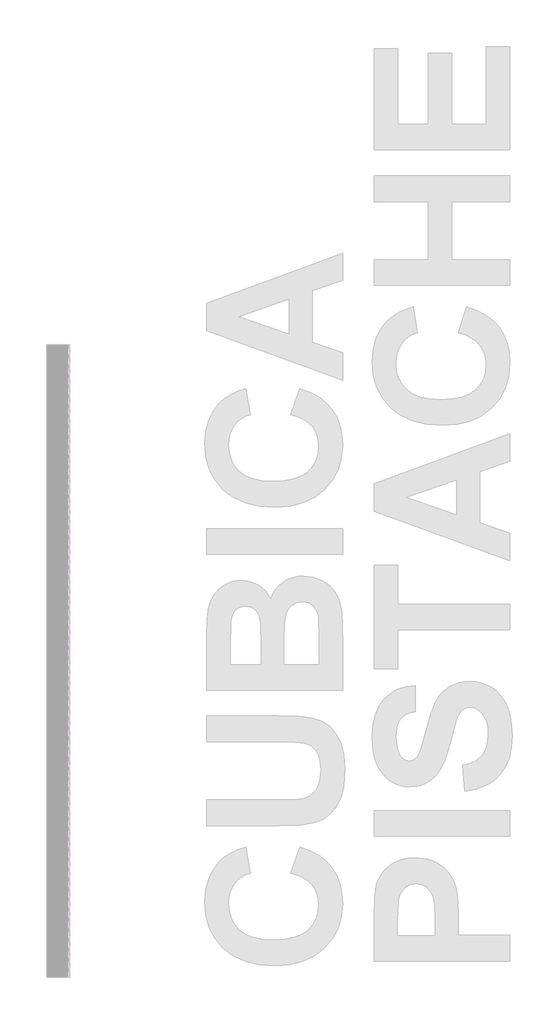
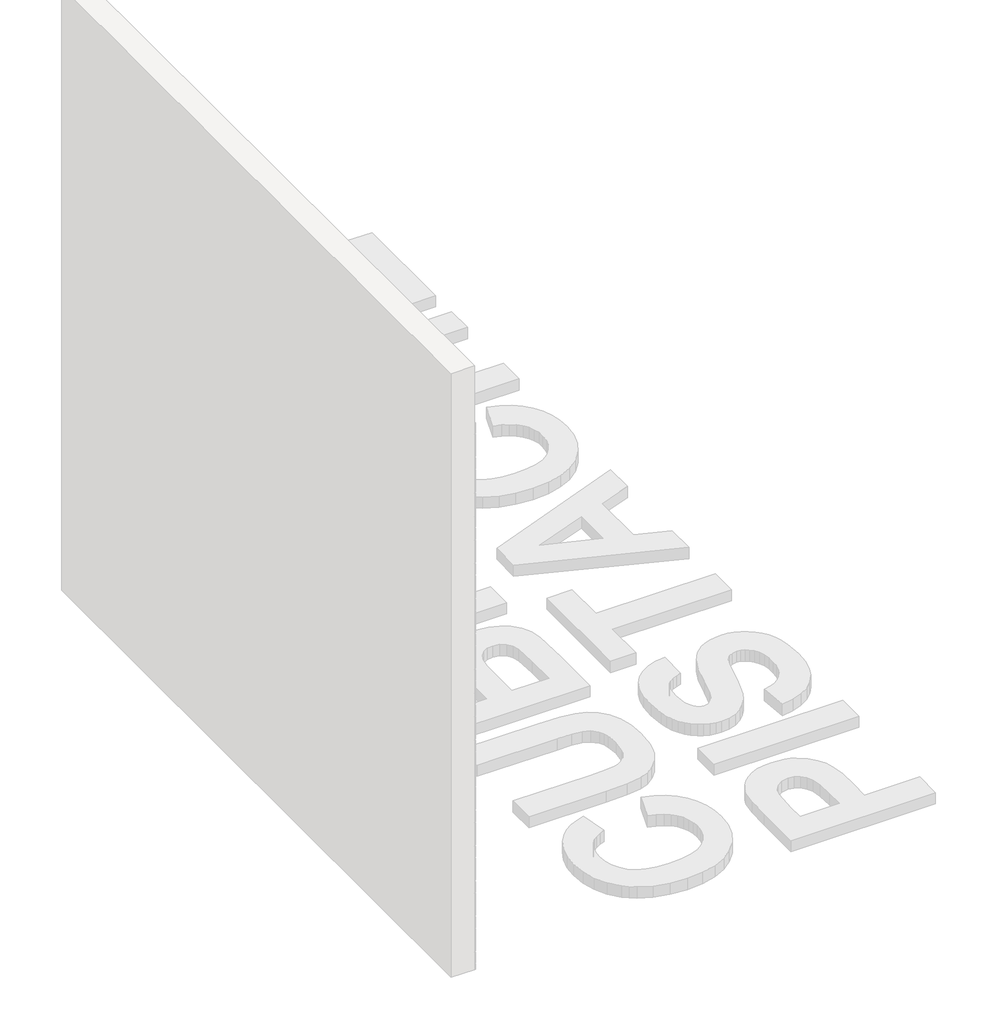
# One storey, part 84 of 121: 145 proxies.
"""IFC4 building model written with IfcOpenShell, lengths in millimetres."""

from ifc_helpers import new_model, si_unit, origin, place, context, project, spatial, transform, mapped, element, save
from components import generic_models_b2b2c5c1, generic_models_9bf73f6f, generic_models_5d175859, generic_models_95f85f1d

model = new_model("IFC4")

# Units and contexts
model_context = context("Model", 3, world=origin())
ifc_project = project(units=[si_unit("LENGTHUNIT", "METRE", prefix="MILLI")], contexts=[model_context])

# Site, building, storey
site = spatial("IfcSite", under=ifc_project)
building = spatial("IfcBuilding", under=site)
storey = spatial("IfcBuildingStorey", under=building, Name="PORTOBELLO - SHOWROOM", Elevation=0.0)

# Proxies
placement = place(None, origin())
generic_models_shape = generic_models_b2b2c5c1(model_context)
element("IfcBuildingElementProxy", 1, Name="PBSHOP - CUBICA PISTACHE 4,8X8,3 : CUBICA PISTACHE - POSIÇÃO 01", ObjectType="PBSHOP - CUBICA PISTACHE 4,8X8,3 : CUBICA PISTACHE - POSIÇÃO 01", at=placement, inside=storey, context=model_context, shape_type="MappedRepresentation", body=[
    mapped(generic_models_shape, transform((150369.5341846, 14249.9760535, 39.4221668), x_axis=(0.0, 1.0, 0.0), y_axis=(0.0, 0.0, 1.0), z_axis=(1.0, 0.0, 0.0))),
])
element("IfcBuildingElementProxy", 2, Name="PBSHOP - CUBICA PISTACHE 4,8X8,3 : CUBICA PISTACHE - POSIÇÃO 01", ObjectType="PBSHOP - CUBICA PISTACHE 4,8X8,3 : CUBICA PISTACHE - POSIÇÃO 01", at=placement, inside=storey, context=model_context, shape_type="MappedRepresentation", body=[
    mapped(generic_models_shape, transform((150369.5341846, 14340.8153227, 39.4221668), x_axis=(0.0, 1.0, 0.0), y_axis=(0.0, 0.0, 1.0), z_axis=(1.0, 0.0, 0.0))),
])
element("IfcBuildingElementProxy", 3, Name="PBSHOP - CUBICA PISTACHE 4,8X8,3 : CUBICA PISTACHE - POSIÇÃO 01", ObjectType="PBSHOP - CUBICA PISTACHE 4,8X8,3 : CUBICA PISTACHE - POSIÇÃO 01", at=placement, inside=storey, context=model_context, shape_type="MappedRepresentation", body=[
    mapped(generic_models_shape, transform((150369.5341846, 14431.654592, 39.4221668), x_axis=(0.0, 1.0, 0.0), y_axis=(0.0, 0.0, 1.0), z_axis=(1.0, 0.0, 0.0))),
])
element("IfcBuildingElementProxy", 4, Name="PBSHOP - CUBICA PISTACHE 4,8X8,3 : CUBICA PISTACHE - POSIÇÃO 01", ObjectType="PBSHOP - CUBICA PISTACHE 4,8X8,3 : CUBICA PISTACHE - POSIÇÃO 01", at=placement, inside=storey, context=model_context, shape_type="MappedRepresentation", body=[
    mapped(generic_models_shape, transform((150369.5341846, 14522.4938612, 39.4221668), x_axis=(0.0, 1.0, 0.0), y_axis=(0.0, 0.0, 1.0), z_axis=(1.0, 0.0, 0.0))),
])
element("IfcBuildingElementProxy", 5, Name="PBSHOP - CUBICA PISTACHE 4,8X8,3 : CUBICA PISTACHE - POSIÇÃO 01", ObjectType="PBSHOP - CUBICA PISTACHE 4,8X8,3 : CUBICA PISTACHE - POSIÇÃO 01", at=placement, inside=storey, context=model_context, shape_type="MappedRepresentation", body=[
    mapped(generic_models_shape, transform((150369.5341846, 14613.3331304, 39.4221668), x_axis=(0.0, 1.0, 0.0), y_axis=(0.0, 0.0, 1.0), z_axis=(1.0, 0.0, 0.0))),
])
element("IfcBuildingElementProxy", 6, Name="PBSHOP - CUBICA PISTACHE 4,8X8,3 : CUBICA PISTACHE - POSIÇÃO 01", ObjectType="PBSHOP - CUBICA PISTACHE 4,8X8,3 : CUBICA PISTACHE - POSIÇÃO 01", at=placement, inside=storey, context=model_context, shape_type="MappedRepresentation", body=[
    mapped(generic_models_shape, transform((150369.5341846, 14704.1723997, 39.4221668), x_axis=(0.0, 1.0, 0.0), y_axis=(0.0, 0.0, 1.0), z_axis=(1.0, 0.0, 0.0))),
])
element("IfcBuildingElementProxy", 7, Name="PBSHOP - CUBICA PISTACHE 4,8X8,3 : CUBICA PISTACHE - POSIÇÃO 01", ObjectType="PBSHOP - CUBICA PISTACHE 4,8X8,3 : CUBICA PISTACHE - POSIÇÃO 01", at=placement, inside=storey, context=model_context, shape_type="MappedRepresentation", body=[
    mapped(generic_models_shape, transform((150369.5341846, 14795.0116689, 39.4221668), x_axis=(0.0, 1.0, 0.0), y_axis=(0.0, 0.0, 1.0), z_axis=(1.0, 0.0, 0.0))),
])
element("IfcBuildingElementProxy", 8, Name="PBSHOP - CUBICA PISTACHE 4,8X8,3 : CUBICA PISTACHE - POSIÇÃO 01", ObjectType="PBSHOP - CUBICA PISTACHE 4,8X8,3 : CUBICA PISTACHE - POSIÇÃO 01", at=placement, inside=storey, context=model_context, shape_type="MappedRepresentation", body=[
    mapped(generic_models_shape, transform((150369.5341846, 14885.8509382, 39.4221668), x_axis=(0.0, 1.0, 0.0), y_axis=(0.0, 0.0, 1.0), z_axis=(1.0, 0.0, 0.0))),
])
element("IfcBuildingElementProxy", 9, Name="PBSHOP - CUBICA PISTACHE 4,8X8,3 : CUBICA PISTACHE - POSIÇÃO 01", ObjectType="PBSHOP - CUBICA PISTACHE 4,8X8,3 : CUBICA PISTACHE - POSIÇÃO 01", at=placement, inside=storey, context=model_context, shape_type="MappedRepresentation", body=[
    mapped(generic_models_shape, transform((150369.5341846, 14976.6902074, 39.4221668), x_axis=(0.0, 1.0, 0.0), y_axis=(0.0, 0.0, 1.0), z_axis=(1.0, 0.0, 0.0))),
])
element("IfcBuildingElementProxy", 10, Name="PBSHOP - CUBICA PISTACHE 4,8X8,3 : CUBICA PISTACHE - POSIÇÃO 01", ObjectType="PBSHOP - CUBICA PISTACHE 4,8X8,3 : CUBICA PISTACHE - POSIÇÃO 01", at=placement, inside=storey, context=model_context, shape_type="MappedRepresentation", body=[
    mapped(generic_models_shape, transform((150369.5341846, 14022.8778804, 118.3568052), x_axis=(0.0, 1.0, 0.0), y_axis=(0.0, 0.0, 1.0), z_axis=(1.0, 0.0, 0.0))),
])
element("IfcBuildingElementProxy", 11, Name="PBSHOP - CUBICA PISTACHE 4,8X8,3 : CUBICA PISTACHE - POSIÇÃO 01", ObjectType="PBSHOP - CUBICA PISTACHE 4,8X8,3 : CUBICA PISTACHE - POSIÇÃO 01", at=placement, inside=storey, context=model_context, shape_type="MappedRepresentation", body=[
    mapped(generic_models_shape, transform((150369.5341846, 14113.7171496, 118.3568052), x_axis=(0.0, 1.0, 0.0), y_axis=(0.0, 0.0, 1.0), z_axis=(1.0, 0.0, 0.0))),
])
element("IfcBuildingElementProxy", 12, Name="PBSHOP - CUBICA PISTACHE 4,8X8,3 : CUBICA PISTACHE - POSIÇÃO 01", ObjectType="PBSHOP - CUBICA PISTACHE 4,8X8,3 : CUBICA PISTACHE - POSIÇÃO 01", at=placement, inside=storey, context=model_context, shape_type="MappedRepresentation", body=[
    mapped(generic_models_shape, transform((150369.5341846, 14204.5564189, 118.3568052), x_axis=(0.0, 1.0, 0.0), y_axis=(0.0, 0.0, 1.0), z_axis=(1.0, 0.0, 0.0))),
])
element("IfcBuildingElementProxy", 13, Name="PBSHOP - CUBICA PISTACHE 4,8X8,3 : CUBICA PISTACHE - POSIÇÃO 01", ObjectType="PBSHOP - CUBICA PISTACHE 4,8X8,3 : CUBICA PISTACHE - POSIÇÃO 01", at=placement, inside=storey, context=model_context, shape_type="MappedRepresentation", body=[
    mapped(generic_models_shape, transform((150369.5341846, 14295.3956881, 118.3568052), x_axis=(0.0, 1.0, 0.0), y_axis=(0.0, 0.0, 1.0), z_axis=(1.0, 0.0, 0.0))),
])
element("IfcBuildingElementProxy", 14, Name="PBSHOP - CUBICA PISTACHE 4,8X8,3 : CUBICA PISTACHE - POSIÇÃO 01", ObjectType="PBSHOP - CUBICA PISTACHE 4,8X8,3 : CUBICA PISTACHE - POSIÇÃO 01", at=placement, inside=storey, context=model_context, shape_type="MappedRepresentation", body=[
    mapped(generic_models_shape, transform((150369.5341846, 14386.2349573, 118.3568052), x_axis=(0.0, 1.0, 0.0), y_axis=(0.0, 0.0, 1.0), z_axis=(1.0, 0.0, 0.0))),
])
element("IfcBuildingElementProxy", 15, Name="PBSHOP - CUBICA PISTACHE 4,8X8,3 : CUBICA PISTACHE - POSIÇÃO 01", ObjectType="PBSHOP - CUBICA PISTACHE 4,8X8,3 : CUBICA PISTACHE - POSIÇÃO 01", at=placement, inside=storey, context=model_context, shape_type="MappedRepresentation", body=[
    mapped(generic_models_shape, transform((150369.5341846, 14477.0742266, 118.3568052), x_axis=(0.0, 1.0, 0.0), y_axis=(0.0, 0.0, 1.0), z_axis=(1.0, 0.0, 0.0))),
])
element("IfcBuildingElementProxy", 16, Name="PBSHOP - CUBICA PISTACHE 4,8X8,3 : CUBICA PISTACHE - POSIÇÃO 01", ObjectType="PBSHOP - CUBICA PISTACHE 4,8X8,3 : CUBICA PISTACHE - POSIÇÃO 01", at=placement, inside=storey, context=model_context, shape_type="MappedRepresentation", body=[
    mapped(generic_models_shape, transform((150369.5341846, 14567.9134958, 118.3568052), x_axis=(0.0, 1.0, 0.0), y_axis=(0.0, 0.0, 1.0), z_axis=(1.0, 0.0, 0.0))),
])
element("IfcBuildingElementProxy", 17, Name="PBSHOP - CUBICA PISTACHE 4,8X8,3 : CUBICA PISTACHE - POSIÇÃO 01", ObjectType="PBSHOP - CUBICA PISTACHE 4,8X8,3 : CUBICA PISTACHE - POSIÇÃO 01", at=placement, inside=storey, context=model_context, shape_type="MappedRepresentation", body=[
    mapped(generic_models_shape, transform((150369.5341846, 14658.7527651, 118.3568052), x_axis=(0.0, 1.0, 0.0), y_axis=(0.0, 0.0, 1.0), z_axis=(1.0, 0.0, 0.0))),
])
element("IfcBuildingElementProxy", 18, Name="PBSHOP - CUBICA PISTACHE 4,8X8,3 : CUBICA PISTACHE - POSIÇÃO 01", ObjectType="PBSHOP - CUBICA PISTACHE 4,8X8,3 : CUBICA PISTACHE - POSIÇÃO 01", at=placement, inside=storey, context=model_context, shape_type="MappedRepresentation", body=[
    mapped(generic_models_shape, transform((150369.5341846, 14749.5920343, 118.3568052), x_axis=(0.0, 1.0, 0.0), y_axis=(0.0, 0.0, 1.0), z_axis=(1.0, 0.0, 0.0))),
])
element("IfcBuildingElementProxy", 19, Name="PBSHOP - CUBICA PISTACHE 4,8X8,3 : CUBICA PISTACHE - POSIÇÃO 01", ObjectType="PBSHOP - CUBICA PISTACHE 4,8X8,3 : CUBICA PISTACHE - POSIÇÃO 01", at=placement, inside=storey, context=model_context, shape_type="MappedRepresentation", body=[
    mapped(generic_models_shape, transform((150369.5341846, 14840.4313036, 118.3568052), x_axis=(0.0, 1.0, 0.0), y_axis=(0.0, 0.0, 1.0), z_axis=(1.0, 0.0, 0.0))),
])
element("IfcBuildingElementProxy", 20, Name="PBSHOP - CUBICA PISTACHE 4,8X8,3 : CUBICA PISTACHE - POSIÇÃO 01", ObjectType="PBSHOP - CUBICA PISTACHE 4,8X8,3 : CUBICA PISTACHE - POSIÇÃO 01", at=placement, inside=storey, context=model_context, shape_type="MappedRepresentation", body=[
    mapped(generic_models_shape, transform((150369.5341846, 14931.2705728, 118.3568052), x_axis=(0.0, 1.0, 0.0), y_axis=(0.0, 0.0, 1.0), z_axis=(1.0, 0.0, 0.0))),
])
element("IfcBuildingElementProxy", 21, Name="PBSHOP - CUBICA PISTACHE 4,8X8,3 : CUBICA PISTACHE - POSIÇÃO 01", ObjectType="PBSHOP - CUBICA PISTACHE 4,8X8,3 : CUBICA PISTACHE - POSIÇÃO 01", at=placement, inside=storey, context=model_context, shape_type="MappedRepresentation", body=[
    mapped(generic_models_shape, transform((150369.5341846, 14068.297515, 197.2914436), x_axis=(0.0, 1.0, 0.0), y_axis=(0.0, 0.0, 1.0), z_axis=(1.0, 0.0, 0.0))),
])
element("IfcBuildingElementProxy", 22, Name="PBSHOP - CUBICA PISTACHE 4,8X8,3 : CUBICA PISTACHE - POSIÇÃO 01", ObjectType="PBSHOP - CUBICA PISTACHE 4,8X8,3 : CUBICA PISTACHE - POSIÇÃO 01", at=placement, inside=storey, context=model_context, shape_type="MappedRepresentation", body=[
    mapped(generic_models_shape, transform((150369.5341846, 14159.1367842, 197.2914436), x_axis=(0.0, 1.0, 0.0), y_axis=(0.0, 0.0, 1.0), z_axis=(1.0, 0.0, 0.0))),
])
element("IfcBuildingElementProxy", 23, Name="PBSHOP - CUBICA PISTACHE 4,8X8,3 : CUBICA PISTACHE - POSIÇÃO 01", ObjectType="PBSHOP - CUBICA PISTACHE 4,8X8,3 : CUBICA PISTACHE - POSIÇÃO 01", at=placement, inside=storey, context=model_context, shape_type="MappedRepresentation", body=[
    mapped(generic_models_shape, transform((150369.5341846, 14249.9760535, 197.2914436), x_axis=(0.0, 1.0, 0.0), y_axis=(0.0, 0.0, 1.0), z_axis=(1.0, 0.0, 0.0))),
])
element("IfcBuildingElementProxy", 24, Name="PBSHOP - CUBICA PISTACHE 4,8X8,3 : CUBICA PISTACHE - POSIÇÃO 01", ObjectType="PBSHOP - CUBICA PISTACHE 4,8X8,3 : CUBICA PISTACHE - POSIÇÃO 01", at=placement, inside=storey, context=model_context, shape_type="MappedRepresentation", body=[
    mapped(generic_models_shape, transform((150369.5341846, 14340.8153227, 197.2914436), x_axis=(0.0, 1.0, 0.0), y_axis=(0.0, 0.0, 1.0), z_axis=(1.0, 0.0, 0.0))),
])
element("IfcBuildingElementProxy", 25, Name="PBSHOP - CUBICA PISTACHE 4,8X8,3 : CUBICA PISTACHE - POSIÇÃO 01", ObjectType="PBSHOP - CUBICA PISTACHE 4,8X8,3 : CUBICA PISTACHE - POSIÇÃO 01", at=placement, inside=storey, context=model_context, shape_type="MappedRepresentation", body=[
    mapped(generic_models_shape, transform((150369.5341846, 14431.654592, 197.2914436), x_axis=(0.0, 1.0, 0.0), y_axis=(0.0, 0.0, 1.0), z_axis=(1.0, 0.0, 0.0))),
])
element("IfcBuildingElementProxy", 26, Name="PBSHOP - CUBICA PISTACHE 4,8X8,3 : CUBICA PISTACHE - POSIÇÃO 01", ObjectType="PBSHOP - CUBICA PISTACHE 4,8X8,3 : CUBICA PISTACHE - POSIÇÃO 01", at=placement, inside=storey, context=model_context, shape_type="MappedRepresentation", body=[
    mapped(generic_models_shape, transform((150369.5341846, 14522.4938612, 197.2914436), x_axis=(0.0, 1.0, 0.0), y_axis=(0.0, 0.0, 1.0), z_axis=(1.0, 0.0, 0.0))),
])
element("IfcBuildingElementProxy", 27, Name="PBSHOP - CUBICA PISTACHE 4,8X8,3 : CUBICA PISTACHE - POSIÇÃO 01", ObjectType="PBSHOP - CUBICA PISTACHE 4,8X8,3 : CUBICA PISTACHE - POSIÇÃO 01", at=placement, inside=storey, context=model_context, shape_type="MappedRepresentation", body=[
    mapped(generic_models_shape, transform((150369.5341846, 14613.3331304, 197.2914436), x_axis=(0.0, 1.0, 0.0), y_axis=(0.0, 0.0, 1.0), z_axis=(1.0, 0.0, 0.0))),
])
element("IfcBuildingElementProxy", 28, Name="PBSHOP - CUBICA PISTACHE 4,8X8,3 : CUBICA PISTACHE - POSIÇÃO 01", ObjectType="PBSHOP - CUBICA PISTACHE 4,8X8,3 : CUBICA PISTACHE - POSIÇÃO 01", at=placement, inside=storey, context=model_context, shape_type="MappedRepresentation", body=[
    mapped(generic_models_shape, transform((150369.5341846, 14704.1723997, 197.2914436), x_axis=(0.0, 1.0, 0.0), y_axis=(0.0, 0.0, 1.0), z_axis=(1.0, 0.0, 0.0))),
])
element("IfcBuildingElementProxy", 29, Name="PBSHOP - CUBICA PISTACHE 4,8X8,3 : CUBICA PISTACHE - POSIÇÃO 01", ObjectType="PBSHOP - CUBICA PISTACHE 4,8X8,3 : CUBICA PISTACHE - POSIÇÃO 01", at=placement, inside=storey, context=model_context, shape_type="MappedRepresentation", body=[
    mapped(generic_models_shape, transform((150369.5341846, 14795.0116689, 197.2914436), x_axis=(0.0, 1.0, 0.0), y_axis=(0.0, 0.0, 1.0), z_axis=(1.0, 0.0, 0.0))),
])
element("IfcBuildingElementProxy", 30, Name="PBSHOP - CUBICA PISTACHE 4,8X8,3 : CUBICA PISTACHE - POSIÇÃO 01", ObjectType="PBSHOP - CUBICA PISTACHE 4,8X8,3 : CUBICA PISTACHE - POSIÇÃO 01", at=placement, inside=storey, context=model_context, shape_type="MappedRepresentation", body=[
    mapped(generic_models_shape, transform((150369.5341846, 14885.8509382, 197.2914436), x_axis=(0.0, 1.0, 0.0), y_axis=(0.0, 0.0, 1.0), z_axis=(1.0, 0.0, 0.0))),
])
element("IfcBuildingElementProxy", 31, Name="PBSHOP - CUBICA PISTACHE 4,8X8,3 : CUBICA PISTACHE - POSIÇÃO 01", ObjectType="PBSHOP - CUBICA PISTACHE 4,8X8,3 : CUBICA PISTACHE - POSIÇÃO 01", at=placement, inside=storey, context=model_context, shape_type="MappedRepresentation", body=[
    mapped(generic_models_shape, transform((150369.5341846, 14976.6902074, 197.2914436), x_axis=(0.0, 1.0, 0.0), y_axis=(0.0, 0.0, 1.0), z_axis=(1.0, 0.0, 0.0))),
])
element("IfcBuildingElementProxy", 32, Name="PBSHOP - CUBICA PISTACHE 4,8X8,3 : CUBICA PISTACHE - POSIÇÃO 01", ObjectType="PBSHOP - CUBICA PISTACHE 4,8X8,3 : CUBICA PISTACHE - POSIÇÃO 01", at=placement, inside=storey, context=model_context, shape_type="MappedRepresentation", body=[
    mapped(generic_models_shape, transform((150369.5341846, 14022.8778804, 276.2260819), x_axis=(0.0, 1.0, 0.0), y_axis=(0.0, 0.0, 1.0), z_axis=(1.0, 0.0, 0.0))),
])
element("IfcBuildingElementProxy", 33, Name="PBSHOP - CUBICA PISTACHE 4,8X8,3 : CUBICA PISTACHE - POSIÇÃO 01", ObjectType="PBSHOP - CUBICA PISTACHE 4,8X8,3 : CUBICA PISTACHE - POSIÇÃO 01", at=placement, inside=storey, context=model_context, shape_type="MappedRepresentation", body=[
    mapped(generic_models_shape, transform((150369.5341846, 14113.7171496, 276.2260819), x_axis=(0.0, 1.0, 0.0), y_axis=(0.0, 0.0, 1.0), z_axis=(1.0, 0.0, 0.0))),
])
element("IfcBuildingElementProxy", 34, Name="PBSHOP - CUBICA PISTACHE 4,8X8,3 : CUBICA PISTACHE - POSIÇÃO 01", ObjectType="PBSHOP - CUBICA PISTACHE 4,8X8,3 : CUBICA PISTACHE - POSIÇÃO 01", at=placement, inside=storey, context=model_context, shape_type="MappedRepresentation", body=[
    mapped(generic_models_shape, transform((150369.5341846, 14204.5564189, 276.2260819), x_axis=(0.0, 1.0, 0.0), y_axis=(0.0, 0.0, 1.0), z_axis=(1.0, 0.0, 0.0))),
])
element("IfcBuildingElementProxy", 35, Name="PBSHOP - CUBICA PISTACHE 4,8X8,3 : CUBICA PISTACHE - POSIÇÃO 01", ObjectType="PBSHOP - CUBICA PISTACHE 4,8X8,3 : CUBICA PISTACHE - POSIÇÃO 01", at=placement, inside=storey, context=model_context, shape_type="MappedRepresentation", body=[
    mapped(generic_models_shape, transform((150369.5341846, 14295.3956881, 276.2260819), x_axis=(0.0, 1.0, 0.0), y_axis=(0.0, 0.0, 1.0), z_axis=(1.0, 0.0, 0.0))),
])
element("IfcBuildingElementProxy", 36, Name="PBSHOP - CUBICA PISTACHE 4,8X8,3 : CUBICA PISTACHE - POSIÇÃO 01", ObjectType="PBSHOP - CUBICA PISTACHE 4,8X8,3 : CUBICA PISTACHE - POSIÇÃO 01", at=placement, inside=storey, context=model_context, shape_type="MappedRepresentation", body=[
    mapped(generic_models_shape, transform((150369.5341846, 14386.2349573, 276.2260819), x_axis=(0.0, 1.0, 0.0), y_axis=(0.0, 0.0, 1.0), z_axis=(1.0, 0.0, 0.0))),
])
element("IfcBuildingElementProxy", 37, Name="PBSHOP - CUBICA PISTACHE 4,8X8,3 : CUBICA PISTACHE - POSIÇÃO 01", ObjectType="PBSHOP - CUBICA PISTACHE 4,8X8,3 : CUBICA PISTACHE - POSIÇÃO 01", at=placement, inside=storey, context=model_context, shape_type="MappedRepresentation", body=[
    mapped(generic_models_shape, transform((150369.5341846, 14477.0742266, 276.2260819), x_axis=(0.0, 1.0, 0.0), y_axis=(0.0, 0.0, 1.0), z_axis=(1.0, 0.0, 0.0))),
])
element("IfcBuildingElementProxy", 38, Name="PBSHOP - CUBICA PISTACHE 4,8X8,3 : CUBICA PISTACHE - POSIÇÃO 01", ObjectType="PBSHOP - CUBICA PISTACHE 4,8X8,3 : CUBICA PISTACHE - POSIÇÃO 01", at=placement, inside=storey, context=model_context, shape_type="MappedRepresentation", body=[
    mapped(generic_models_shape, transform((150369.5341846, 14567.9134958, 276.2260819), x_axis=(0.0, 1.0, 0.0), y_axis=(0.0, 0.0, 1.0), z_axis=(1.0, 0.0, 0.0))),
])
element("IfcBuildingElementProxy", 39, Name="PBSHOP - CUBICA PISTACHE 4,8X8,3 : CUBICA PISTACHE - POSIÇÃO 01", ObjectType="PBSHOP - CUBICA PISTACHE 4,8X8,3 : CUBICA PISTACHE - POSIÇÃO 01", at=placement, inside=storey, context=model_context, shape_type="MappedRepresentation", body=[
    mapped(generic_models_shape, transform((150369.5341846, 14658.7527651, 276.2260819), x_axis=(0.0, 1.0, 0.0), y_axis=(0.0, 0.0, 1.0), z_axis=(1.0, 0.0, 0.0))),
])
element("IfcBuildingElementProxy", 40, Name="PBSHOP - CUBICA PISTACHE 4,8X8,3 : CUBICA PISTACHE - POSIÇÃO 01", ObjectType="PBSHOP - CUBICA PISTACHE 4,8X8,3 : CUBICA PISTACHE - POSIÇÃO 01", at=placement, inside=storey, context=model_context, shape_type="MappedRepresentation", body=[
    mapped(generic_models_shape, transform((150369.5341846, 14749.5920343, 276.2260819), x_axis=(0.0, 1.0, 0.0), y_axis=(0.0, 0.0, 1.0), z_axis=(1.0, 0.0, 0.0))),
])
element("IfcBuildingElementProxy", 41, Name="PBSHOP - CUBICA PISTACHE 4,8X8,3 : CUBICA PISTACHE - POSIÇÃO 01", ObjectType="PBSHOP - CUBICA PISTACHE 4,8X8,3 : CUBICA PISTACHE - POSIÇÃO 01", at=placement, inside=storey, context=model_context, shape_type="MappedRepresentation", body=[
    mapped(generic_models_shape, transform((150369.5341846, 14840.4313036, 276.2260819), x_axis=(0.0, 1.0, 0.0), y_axis=(0.0, 0.0, 1.0), z_axis=(1.0, 0.0, 0.0))),
])
element("IfcBuildingElementProxy", 42, Name="PBSHOP - CUBICA PISTACHE 4,8X8,3 : CUBICA PISTACHE - POSIÇÃO 01", ObjectType="PBSHOP - CUBICA PISTACHE 4,8X8,3 : CUBICA PISTACHE - POSIÇÃO 01", at=placement, inside=storey, context=model_context, shape_type="MappedRepresentation", body=[
    mapped(generic_models_shape, transform((150369.5341846, 14931.2705728, 276.2260819), x_axis=(0.0, 1.0, 0.0), y_axis=(0.0, 0.0, 1.0), z_axis=(1.0, 0.0, 0.0))),
])
element("IfcBuildingElementProxy", 43, Name="PBSHOP - CUBICA PISTACHE 4,8X8,3 : CUBICA PISTACHE - POSIÇÃO 01", ObjectType="PBSHOP - CUBICA PISTACHE 4,8X8,3 : CUBICA PISTACHE - POSIÇÃO 01", at=placement, inside=storey, context=model_context, shape_type="MappedRepresentation", body=[
    mapped(generic_models_shape, transform((150369.5341846, 14068.297515, 355.1607203), x_axis=(0.0, 1.0, 0.0), y_axis=(0.0, 0.0, 1.0), z_axis=(1.0, 0.0, 0.0))),
])
element("IfcBuildingElementProxy", 44, Name="PBSHOP - CUBICA PISTACHE 4,8X8,3 : CUBICA PISTACHE - POSIÇÃO 01", ObjectType="PBSHOP - CUBICA PISTACHE 4,8X8,3 : CUBICA PISTACHE - POSIÇÃO 01", at=placement, inside=storey, context=model_context, shape_type="MappedRepresentation", body=[
    mapped(generic_models_shape, transform((150369.5341846, 14159.1367842, 355.1607203), x_axis=(0.0, 1.0, 0.0), y_axis=(0.0, 0.0, 1.0), z_axis=(1.0, 0.0, 0.0))),
])
element("IfcBuildingElementProxy", 45, Name="PBSHOP - CUBICA PISTACHE 4,8X8,3 : CUBICA PISTACHE - POSIÇÃO 01", ObjectType="PBSHOP - CUBICA PISTACHE 4,8X8,3 : CUBICA PISTACHE - POSIÇÃO 01", at=placement, inside=storey, context=model_context, shape_type="MappedRepresentation", body=[
    mapped(generic_models_shape, transform((150369.5341846, 14249.9760535, 355.1607203), x_axis=(0.0, 1.0, 0.0), y_axis=(0.0, 0.0, 1.0), z_axis=(1.0, 0.0, 0.0))),
])
element("IfcBuildingElementProxy", 46, Name="PBSHOP - CUBICA PISTACHE 4,8X8,3 : CUBICA PISTACHE - POSIÇÃO 01", ObjectType="PBSHOP - CUBICA PISTACHE 4,8X8,3 : CUBICA PISTACHE - POSIÇÃO 01", at=placement, inside=storey, context=model_context, shape_type="MappedRepresentation", body=[
    mapped(generic_models_shape, transform((150369.5341846, 14340.8153227, 355.1607203), x_axis=(0.0, 1.0, 0.0), y_axis=(0.0, 0.0, 1.0), z_axis=(1.0, 0.0, 0.0))),
])
element("IfcBuildingElementProxy", 47, Name="PBSHOP - CUBICA PISTACHE 4,8X8,3 : CUBICA PISTACHE - POSIÇÃO 01", ObjectType="PBSHOP - CUBICA PISTACHE 4,8X8,3 : CUBICA PISTACHE - POSIÇÃO 01", at=placement, inside=storey, context=model_context, shape_type="MappedRepresentation", body=[
    mapped(generic_models_shape, transform((150369.5341846, 14431.654592, 355.1607203), x_axis=(0.0, 1.0, 0.0), y_axis=(0.0, 0.0, 1.0), z_axis=(1.0, 0.0, 0.0))),
])
element("IfcBuildingElementProxy", 48, Name="PBSHOP - CUBICA PISTACHE 4,8X8,3 : CUBICA PISTACHE - POSIÇÃO 01", ObjectType="PBSHOP - CUBICA PISTACHE 4,8X8,3 : CUBICA PISTACHE - POSIÇÃO 01", at=placement, inside=storey, context=model_context, shape_type="MappedRepresentation", body=[
    mapped(generic_models_shape, transform((150369.5341846, 14522.4938612, 355.1607203), x_axis=(0.0, 1.0, 0.0), y_axis=(0.0, 0.0, 1.0), z_axis=(1.0, 0.0, 0.0))),
])
element("IfcBuildingElementProxy", 49, Name="PBSHOP - CUBICA PISTACHE 4,8X8,3 : CUBICA PISTACHE - POSIÇÃO 01", ObjectType="PBSHOP - CUBICA PISTACHE 4,8X8,3 : CUBICA PISTACHE - POSIÇÃO 01", at=placement, inside=storey, context=model_context, shape_type="MappedRepresentation", body=[
    mapped(generic_models_shape, transform((150369.5341846, 14613.3331304, 355.1607203), x_axis=(0.0, 1.0, 0.0), y_axis=(0.0, 0.0, 1.0), z_axis=(1.0, 0.0, 0.0))),
])
element("IfcBuildingElementProxy", 50, Name="PBSHOP - CUBICA PISTACHE 4,8X8,3 : CUBICA PISTACHE - POSIÇÃO 01", ObjectType="PBSHOP - CUBICA PISTACHE 4,8X8,3 : CUBICA PISTACHE - POSIÇÃO 01", at=placement, inside=storey, context=model_context, shape_type="MappedRepresentation", body=[
    mapped(generic_models_shape, transform((150369.5341846, 14704.1723997, 355.1607203), x_axis=(0.0, 1.0, 0.0), y_axis=(0.0, 0.0, 1.0), z_axis=(1.0, 0.0, 0.0))),
])
generic_models_2_shape = generic_models_9bf73f6f(model_context)
element("IfcBuildingElementProxy", 51, Name="PBSHOP - CUBICA PISTACHE 4,8X8,3 : CUBICA PISTACHE - POSIÇÃO 03", ObjectType="PBSHOP - CUBICA PISTACHE 4,8X8,3 : CUBICA PISTACHE - POSIÇÃO 03", at=placement, inside=storey, context=model_context, shape_type="MappedRepresentation", body=[
    mapped(generic_models_2_shape, transform((150369.5341846, 14000.1702222, 78.8482756), x_axis=(0.0, 1.0, 0.0), y_axis=(0.0, 0.0, 1.0), z_axis=(1.0, 0.0, 0.0))),
])
element("IfcBuildingElementProxy", 52, Name="PBSHOP - CUBICA PISTACHE 4,8X8,3 : CUBICA PISTACHE - POSIÇÃO 03", ObjectType="PBSHOP - CUBICA PISTACHE 4,8X8,3 : CUBICA PISTACHE - POSIÇÃO 03", at=placement, inside=storey, context=model_context, shape_type="MappedRepresentation", body=[
    mapped(generic_models_2_shape, transform((150369.5341846, 14091.0094915, 78.8482756), x_axis=(0.0, 1.0, 0.0), y_axis=(0.0, 0.0, 1.0), z_axis=(1.0, 0.0, 0.0))),
])
element("IfcBuildingElementProxy", 53, Name="PBSHOP - CUBICA PISTACHE 4,8X8,3 : CUBICA PISTACHE - POSIÇÃO 03", ObjectType="PBSHOP - CUBICA PISTACHE 4,8X8,3 : CUBICA PISTACHE - POSIÇÃO 03", at=placement, inside=storey, context=model_context, shape_type="MappedRepresentation", body=[
    mapped(generic_models_2_shape, transform((150369.5341846, 14181.8487607, 78.8482756), x_axis=(0.0, 1.0, 0.0), y_axis=(0.0, 0.0, 1.0), z_axis=(1.0, 0.0, 0.0))),
])
element("IfcBuildingElementProxy", 54, Name="PBSHOP - CUBICA PISTACHE 4,8X8,3 : CUBICA PISTACHE - POSIÇÃO 03", ObjectType="PBSHOP - CUBICA PISTACHE 4,8X8,3 : CUBICA PISTACHE - POSIÇÃO 03", at=placement, inside=storey, context=model_context, shape_type="MappedRepresentation", body=[
    mapped(generic_models_2_shape, transform((150369.5341846, 14272.6880299, 78.8482756), x_axis=(0.0, 1.0, 0.0), y_axis=(0.0, 0.0, 1.0), z_axis=(1.0, 0.0, 0.0))),
])
element("IfcBuildingElementProxy", 55, Name="PBSHOP - CUBICA PISTACHE 4,8X8,3 : CUBICA PISTACHE - POSIÇÃO 03", ObjectType="PBSHOP - CUBICA PISTACHE 4,8X8,3 : CUBICA PISTACHE - POSIÇÃO 03", at=placement, inside=storey, context=model_context, shape_type="MappedRepresentation", body=[
    mapped(generic_models_2_shape, transform((150369.5341846, 14363.5272992, 78.8482756), x_axis=(0.0, 1.0, 0.0), y_axis=(0.0, 0.0, 1.0), z_axis=(1.0, 0.0, 0.0))),
])
element("IfcBuildingElementProxy", 56, Name="PBSHOP - CUBICA PISTACHE 4,8X8,3 : CUBICA PISTACHE - POSIÇÃO 03", ObjectType="PBSHOP - CUBICA PISTACHE 4,8X8,3 : CUBICA PISTACHE - POSIÇÃO 03", at=placement, inside=storey, context=model_context, shape_type="MappedRepresentation", body=[
    mapped(generic_models_2_shape, transform((150369.5341846, 14454.3665684, 78.8482756), x_axis=(0.0, 1.0, 0.0), y_axis=(0.0, 0.0, 1.0), z_axis=(1.0, 0.0, 0.0))),
])
element("IfcBuildingElementProxy", 57, Name="PBSHOP - CUBICA PISTACHE 4,8X8,3 : CUBICA PISTACHE - POSIÇÃO 03", ObjectType="PBSHOP - CUBICA PISTACHE 4,8X8,3 : CUBICA PISTACHE - POSIÇÃO 03", at=placement, inside=storey, context=model_context, shape_type="MappedRepresentation", body=[
    mapped(generic_models_2_shape, transform((150369.5341846, 14545.2058377, 78.8482756), x_axis=(0.0, 1.0, 0.0), y_axis=(0.0, 0.0, 1.0), z_axis=(1.0, 0.0, 0.0))),
])
element("IfcBuildingElementProxy", 58, Name="PBSHOP - CUBICA PISTACHE 4,8X8,3 : CUBICA PISTACHE - POSIÇÃO 03", ObjectType="PBSHOP - CUBICA PISTACHE 4,8X8,3 : CUBICA PISTACHE - POSIÇÃO 03", at=placement, inside=storey, context=model_context, shape_type="MappedRepresentation", body=[
    mapped(generic_models_2_shape, transform((150369.5341846, 14636.0451069, 78.8482756), x_axis=(0.0, 1.0, 0.0), y_axis=(0.0, 0.0, 1.0), z_axis=(1.0, 0.0, 0.0))),
])
element("IfcBuildingElementProxy", 59, Name="PBSHOP - CUBICA PISTACHE 4,8X8,3 : CUBICA PISTACHE - POSIÇÃO 03", ObjectType="PBSHOP - CUBICA PISTACHE 4,8X8,3 : CUBICA PISTACHE - POSIÇÃO 03", at=placement, inside=storey, context=model_context, shape_type="MappedRepresentation", body=[
    mapped(generic_models_2_shape, transform((150369.5341846, 14726.8843762, 78.8482756), x_axis=(0.0, 1.0, 0.0), y_axis=(0.0, 0.0, 1.0), z_axis=(1.0, 0.0, 0.0))),
])
element("IfcBuildingElementProxy", 60, Name="PBSHOP - CUBICA PISTACHE 4,8X8,3 : CUBICA PISTACHE - POSIÇÃO 03", ObjectType="PBSHOP - CUBICA PISTACHE 4,8X8,3 : CUBICA PISTACHE - POSIÇÃO 03", at=placement, inside=storey, context=model_context, shape_type="MappedRepresentation", body=[
    mapped(generic_models_2_shape, transform((150369.5341846, 14817.7236454, 78.8482756), x_axis=(0.0, 1.0, 0.0), y_axis=(0.0, 0.0, 1.0), z_axis=(1.0, 0.0, 0.0))),
])
element("IfcBuildingElementProxy", 61, Name="PBSHOP - CUBICA PISTACHE 4,8X8,3 : CUBICA PISTACHE - POSIÇÃO 03", ObjectType="PBSHOP - CUBICA PISTACHE 4,8X8,3 : CUBICA PISTACHE - POSIÇÃO 03", at=placement, inside=storey, context=model_context, shape_type="MappedRepresentation", body=[
    mapped(generic_models_2_shape, transform((150369.5341846, 14908.5629147, 78.8482756), x_axis=(0.0, 1.0, 0.0), y_axis=(0.0, 0.0, 1.0), z_axis=(1.0, 0.0, 0.0))),
])
element("IfcBuildingElementProxy", 62, Name="PBSHOP - CUBICA PISTACHE 4,8X8,3 : CUBICA PISTACHE - POSIÇÃO 03", ObjectType="PBSHOP - CUBICA PISTACHE 4,8X8,3 : CUBICA PISTACHE - POSIÇÃO 03", at=placement, inside=storey, context=model_context, shape_type="MappedRepresentation", body=[
    mapped(generic_models_2_shape, transform((150369.5341846, 14999.4021839, 78.8482756), x_axis=(0.0, 1.0, 0.0), y_axis=(0.0, 0.0, 1.0), z_axis=(1.0, 0.0, 0.0))),
])
element("IfcBuildingElementProxy", 63, Name="PBSHOP - CUBICA PISTACHE 4,8X8,3 : CUBICA PISTACHE - POSIÇÃO 03", ObjectType="PBSHOP - CUBICA PISTACHE 4,8X8,3 : CUBICA PISTACHE - POSIÇÃO 03", at=placement, inside=storey, context=model_context, shape_type="MappedRepresentation", body=[
    mapped(generic_models_2_shape, transform((150369.5341846, 14045.5898568, 157.7829139), x_axis=(0.0, 1.0, 0.0), y_axis=(0.0, 0.0, 1.0), z_axis=(1.0, 0.0, 0.0))),
])
element("IfcBuildingElementProxy", 64, Name="PBSHOP - CUBICA PISTACHE 4,8X8,3 : CUBICA PISTACHE - POSIÇÃO 03", ObjectType="PBSHOP - CUBICA PISTACHE 4,8X8,3 : CUBICA PISTACHE - POSIÇÃO 03", at=placement, inside=storey, context=model_context, shape_type="MappedRepresentation", body=[
    mapped(generic_models_2_shape, transform((150369.5341846, 14136.4291261, 157.7829139), x_axis=(0.0, 1.0, 0.0), y_axis=(0.0, 0.0, 1.0), z_axis=(1.0, 0.0, 0.0))),
])
element("IfcBuildingElementProxy", 65, Name="PBSHOP - CUBICA PISTACHE 4,8X8,3 : CUBICA PISTACHE - POSIÇÃO 03", ObjectType="PBSHOP - CUBICA PISTACHE 4,8X8,3 : CUBICA PISTACHE - POSIÇÃO 03", at=placement, inside=storey, context=model_context, shape_type="MappedRepresentation", body=[
    mapped(generic_models_2_shape, transform((150369.5341846, 14227.2683953, 157.7829139), x_axis=(0.0, 1.0, 0.0), y_axis=(0.0, 0.0, 1.0), z_axis=(1.0, 0.0, 0.0))),
])
element("IfcBuildingElementProxy", 66, Name="PBSHOP - CUBICA PISTACHE 4,8X8,3 : CUBICA PISTACHE - POSIÇÃO 03", ObjectType="PBSHOP - CUBICA PISTACHE 4,8X8,3 : CUBICA PISTACHE - POSIÇÃO 03", at=placement, inside=storey, context=model_context, shape_type="MappedRepresentation", body=[
    mapped(generic_models_2_shape, transform((150369.5341846, 14318.1076646, 157.7829139), x_axis=(0.0, 1.0, 0.0), y_axis=(0.0, 0.0, 1.0), z_axis=(1.0, 0.0, 0.0))),
])
element("IfcBuildingElementProxy", 67, Name="PBSHOP - CUBICA PISTACHE 4,8X8,3 : CUBICA PISTACHE - POSIÇÃO 03", ObjectType="PBSHOP - CUBICA PISTACHE 4,8X8,3 : CUBICA PISTACHE - POSIÇÃO 03", at=placement, inside=storey, context=model_context, shape_type="MappedRepresentation", body=[
    mapped(generic_models_2_shape, transform((150369.5341846, 14408.9469338, 157.7829139), x_axis=(0.0, 1.0, 0.0), y_axis=(0.0, 0.0, 1.0), z_axis=(1.0, 0.0, 0.0))),
])
element("IfcBuildingElementProxy", 68, Name="PBSHOP - CUBICA PISTACHE 4,8X8,3 : CUBICA PISTACHE - POSIÇÃO 03", ObjectType="PBSHOP - CUBICA PISTACHE 4,8X8,3 : CUBICA PISTACHE - POSIÇÃO 03", at=placement, inside=storey, context=model_context, shape_type="MappedRepresentation", body=[
    mapped(generic_models_2_shape, transform((150369.5341846, 14499.7862031, 157.7829139), x_axis=(0.0, 1.0, 0.0), y_axis=(0.0, 0.0, 1.0), z_axis=(1.0, 0.0, 0.0))),
])
element("IfcBuildingElementProxy", 69, Name="PBSHOP - CUBICA PISTACHE 4,8X8,3 : CUBICA PISTACHE - POSIÇÃO 03", ObjectType="PBSHOP - CUBICA PISTACHE 4,8X8,3 : CUBICA PISTACHE - POSIÇÃO 03", at=placement, inside=storey, context=model_context, shape_type="MappedRepresentation", body=[
    mapped(generic_models_2_shape, transform((150369.5341846, 14590.6254723, 157.7829139), x_axis=(0.0, 1.0, 0.0), y_axis=(0.0, 0.0, 1.0), z_axis=(1.0, 0.0, 0.0))),
])
element("IfcBuildingElementProxy", 70, Name="PBSHOP - CUBICA PISTACHE 4,8X8,3 : CUBICA PISTACHE - POSIÇÃO 03", ObjectType="PBSHOP - CUBICA PISTACHE 4,8X8,3 : CUBICA PISTACHE - POSIÇÃO 03", at=placement, inside=storey, context=model_context, shape_type="MappedRepresentation", body=[
    mapped(generic_models_2_shape, transform((150369.5341846, 14681.4647415, 157.7829139), x_axis=(0.0, 1.0, 0.0), y_axis=(0.0, 0.0, 1.0), z_axis=(1.0, 0.0, 0.0))),
])
element("IfcBuildingElementProxy", 71, Name="PBSHOP - CUBICA PISTACHE 4,8X8,3 : CUBICA PISTACHE - POSIÇÃO 03", ObjectType="PBSHOP - CUBICA PISTACHE 4,8X8,3 : CUBICA PISTACHE - POSIÇÃO 03", at=placement, inside=storey, context=model_context, shape_type="MappedRepresentation", body=[
    mapped(generic_models_2_shape, transform((150369.5341846, 14772.3040108, 157.7829139), x_axis=(0.0, 1.0, 0.0), y_axis=(0.0, 0.0, 1.0), z_axis=(1.0, 0.0, 0.0))),
])
element("IfcBuildingElementProxy", 72, Name="PBSHOP - CUBICA PISTACHE 4,8X8,3 : CUBICA PISTACHE - POSIÇÃO 03", ObjectType="PBSHOP - CUBICA PISTACHE 4,8X8,3 : CUBICA PISTACHE - POSIÇÃO 03", at=placement, inside=storey, context=model_context, shape_type="MappedRepresentation", body=[
    mapped(generic_models_2_shape, transform((150369.5341846, 14863.14328, 157.7829139), x_axis=(0.0, 1.0, 0.0), y_axis=(0.0, 0.0, 1.0), z_axis=(1.0, 0.0, 0.0))),
])
element("IfcBuildingElementProxy", 73, Name="PBSHOP - CUBICA PISTACHE 4,8X8,3 : CUBICA PISTACHE - POSIÇÃO 03", ObjectType="PBSHOP - CUBICA PISTACHE 4,8X8,3 : CUBICA PISTACHE - POSIÇÃO 03", at=placement, inside=storey, context=model_context, shape_type="MappedRepresentation", body=[
    mapped(generic_models_2_shape, transform((150369.5341846, 14953.9825493, 157.7829139), x_axis=(0.0, 1.0, 0.0), y_axis=(0.0, 0.0, 1.0), z_axis=(1.0, 0.0, 0.0))),
])
element("IfcBuildingElementProxy", 74, Name="PBSHOP - CUBICA PISTACHE 4,8X8,3 : CUBICA PISTACHE - POSIÇÃO 03", ObjectType="PBSHOP - CUBICA PISTACHE 4,8X8,3 : CUBICA PISTACHE - POSIÇÃO 03", at=placement, inside=storey, context=model_context, shape_type="MappedRepresentation", body=[
    mapped(generic_models_2_shape, transform((150369.5341846, 14000.1702222, 236.7175523), x_axis=(0.0, 1.0, 0.0), y_axis=(0.0, 0.0, 1.0), z_axis=(1.0, 0.0, 0.0))),
])
element("IfcBuildingElementProxy", 75, Name="PBSHOP - CUBICA PISTACHE 4,8X8,3 : CUBICA PISTACHE - POSIÇÃO 03", ObjectType="PBSHOP - CUBICA PISTACHE 4,8X8,3 : CUBICA PISTACHE - POSIÇÃO 03", at=placement, inside=storey, context=model_context, shape_type="MappedRepresentation", body=[
    mapped(generic_models_2_shape, transform((150369.5341846, 14091.0094915, 236.7175523), x_axis=(0.0, 1.0, 0.0), y_axis=(0.0, 0.0, 1.0), z_axis=(1.0, 0.0, 0.0))),
])
element("IfcBuildingElementProxy", 76, Name="PBSHOP - CUBICA PISTACHE 4,8X8,3 : CUBICA PISTACHE - POSIÇÃO 03", ObjectType="PBSHOP - CUBICA PISTACHE 4,8X8,3 : CUBICA PISTACHE - POSIÇÃO 03", at=placement, inside=storey, context=model_context, shape_type="MappedRepresentation", body=[
    mapped(generic_models_2_shape, transform((150369.5341846, 14181.8487607, 236.7175523), x_axis=(0.0, 1.0, 0.0), y_axis=(0.0, 0.0, 1.0), z_axis=(1.0, 0.0, 0.0))),
])
element("IfcBuildingElementProxy", 77, Name="PBSHOP - CUBICA PISTACHE 4,8X8,3 : CUBICA PISTACHE - POSIÇÃO 03", ObjectType="PBSHOP - CUBICA PISTACHE 4,8X8,3 : CUBICA PISTACHE - POSIÇÃO 03", at=placement, inside=storey, context=model_context, shape_type="MappedRepresentation", body=[
    mapped(generic_models_2_shape, transform((150369.5341846, 14272.6880299, 236.7175523), x_axis=(0.0, 1.0, 0.0), y_axis=(0.0, 0.0, 1.0), z_axis=(1.0, 0.0, 0.0))),
])
element("IfcBuildingElementProxy", 78, Name="PBSHOP - CUBICA PISTACHE 4,8X8,3 : CUBICA PISTACHE - POSIÇÃO 03", ObjectType="PBSHOP - CUBICA PISTACHE 4,8X8,3 : CUBICA PISTACHE - POSIÇÃO 03", at=placement, inside=storey, context=model_context, shape_type="MappedRepresentation", body=[
    mapped(generic_models_2_shape, transform((150369.5341846, 14363.5272992, 236.7175523), x_axis=(0.0, 1.0, 0.0), y_axis=(0.0, 0.0, 1.0), z_axis=(1.0, 0.0, 0.0))),
])
element("IfcBuildingElementProxy", 79, Name="PBSHOP - CUBICA PISTACHE 4,8X8,3 : CUBICA PISTACHE - POSIÇÃO 03", ObjectType="PBSHOP - CUBICA PISTACHE 4,8X8,3 : CUBICA PISTACHE - POSIÇÃO 03", at=placement, inside=storey, context=model_context, shape_type="MappedRepresentation", body=[
    mapped(generic_models_2_shape, transform((150369.5341846, 14454.3665684, 236.7175523), x_axis=(0.0, 1.0, 0.0), y_axis=(0.0, 0.0, 1.0), z_axis=(1.0, 0.0, 0.0))),
])
element("IfcBuildingElementProxy", 80, Name="PBSHOP - CUBICA PISTACHE 4,8X8,3 : CUBICA PISTACHE - POSIÇÃO 03", ObjectType="PBSHOP - CUBICA PISTACHE 4,8X8,3 : CUBICA PISTACHE - POSIÇÃO 03", at=placement, inside=storey, context=model_context, shape_type="MappedRepresentation", body=[
    mapped(generic_models_2_shape, transform((150369.5341846, 14545.2058377, 236.7175523), x_axis=(0.0, 1.0, 0.0), y_axis=(0.0, 0.0, 1.0), z_axis=(1.0, 0.0, 0.0))),
])
element("IfcBuildingElementProxy", 81, Name="PBSHOP - CUBICA PISTACHE 4,8X8,3 : CUBICA PISTACHE - POSIÇÃO 03", ObjectType="PBSHOP - CUBICA PISTACHE 4,8X8,3 : CUBICA PISTACHE - POSIÇÃO 03", at=placement, inside=storey, context=model_context, shape_type="MappedRepresentation", body=[
    mapped(generic_models_2_shape, transform((150369.5341846, 14636.0451069, 236.7175523), x_axis=(0.0, 1.0, 0.0), y_axis=(0.0, 0.0, 1.0), z_axis=(1.0, 0.0, 0.0))),
])
element("IfcBuildingElementProxy", 82, Name="PBSHOP - CUBICA PISTACHE 4,8X8,3 : CUBICA PISTACHE - POSIÇÃO 03", ObjectType="PBSHOP - CUBICA PISTACHE 4,8X8,3 : CUBICA PISTACHE - POSIÇÃO 03", at=placement, inside=storey, context=model_context, shape_type="MappedRepresentation", body=[
    mapped(generic_models_2_shape, transform((150369.5341846, 14726.8843762, 236.7175523), x_axis=(0.0, 1.0, 0.0), y_axis=(0.0, 0.0, 1.0), z_axis=(1.0, 0.0, 0.0))),
])
element("IfcBuildingElementProxy", 83, Name="PBSHOP - CUBICA PISTACHE 4,8X8,3 : CUBICA PISTACHE - POSIÇÃO 03", ObjectType="PBSHOP - CUBICA PISTACHE 4,8X8,3 : CUBICA PISTACHE - POSIÇÃO 03", at=placement, inside=storey, context=model_context, shape_type="MappedRepresentation", body=[
    mapped(generic_models_2_shape, transform((150369.5341846, 14817.7236454, 236.7175523), x_axis=(0.0, 1.0, 0.0), y_axis=(0.0, 0.0, 1.0), z_axis=(1.0, 0.0, 0.0))),
])
element("IfcBuildingElementProxy", 84, Name="PBSHOP - CUBICA PISTACHE 4,8X8,3 : CUBICA PISTACHE - POSIÇÃO 03", ObjectType="PBSHOP - CUBICA PISTACHE 4,8X8,3 : CUBICA PISTACHE - POSIÇÃO 03", at=placement, inside=storey, context=model_context, shape_type="MappedRepresentation", body=[
    mapped(generic_models_2_shape, transform((150369.5341846, 14908.5629147, 236.7175523), x_axis=(0.0, 1.0, 0.0), y_axis=(0.0, 0.0, 1.0), z_axis=(1.0, 0.0, 0.0))),
])
element("IfcBuildingElementProxy", 85, Name="PBSHOP - CUBICA PISTACHE 4,8X8,3 : CUBICA PISTACHE - POSIÇÃO 03", ObjectType="PBSHOP - CUBICA PISTACHE 4,8X8,3 : CUBICA PISTACHE - POSIÇÃO 03", at=placement, inside=storey, context=model_context, shape_type="MappedRepresentation", body=[
    mapped(generic_models_2_shape, transform((150369.5341846, 14999.4021839, 236.7175523), x_axis=(0.0, 1.0, 0.0), y_axis=(0.0, 0.0, 1.0), z_axis=(1.0, 0.0, 0.0))),
])
generic_models_3_shape = generic_models_5d175859(model_context)
element("IfcBuildingElementProxy", 86, Name="PBSHOP - CUBICA PISTACHE 4,8X8,3 : CUBICA PISTACHE - POSIÇÃO 01", ObjectType="PBSHOP - CUBICA PISTACHE 4,8X8,3 : CUBICA PISTACHE - POSIÇÃO 01", at=placement, inside=storey, context=model_context, shape_type="MappedRepresentation", body=[
    mapped(generic_models_3_shape, transform((150369.5341846, 14295.4000064, 39.4221668), x_axis=(0.0, -1.0, 0.0), y_axis=(0.0, 0.0, -1.0), z_axis=(1.0, 0.0, 0.0))),
])
element("IfcBuildingElementProxy", 87, Name="PBSHOP - CUBICA PISTACHE 4,8X8,3 : CUBICA PISTACHE - POSIÇÃO 01", ObjectType="PBSHOP - CUBICA PISTACHE 4,8X8,3 : CUBICA PISTACHE - POSIÇÃO 01", at=placement, inside=storey, context=model_context, shape_type="MappedRepresentation", body=[
    mapped(generic_models_3_shape, transform((150369.5341846, 14386.2392757, 39.4221668), x_axis=(0.0, -1.0, 0.0), y_axis=(0.0, 0.0, -1.0), z_axis=(1.0, 0.0, 0.0))),
])
element("IfcBuildingElementProxy", 88, Name="PBSHOP - CUBICA PISTACHE 4,8X8,3 : CUBICA PISTACHE - POSIÇÃO 01", ObjectType="PBSHOP - CUBICA PISTACHE 4,8X8,3 : CUBICA PISTACHE - POSIÇÃO 01", at=placement, inside=storey, context=model_context, shape_type="MappedRepresentation", body=[
    mapped(generic_models_3_shape, transform((150369.5341846, 14477.0785449, 39.4221668), x_axis=(0.0, -1.0, 0.0), y_axis=(0.0, 0.0, -1.0), z_axis=(1.0, 0.0, 0.0))),
])
element("IfcBuildingElementProxy", 89, Name="PBSHOP - CUBICA PISTACHE 4,8X8,3 : CUBICA PISTACHE - POSIÇÃO 01", ObjectType="PBSHOP - CUBICA PISTACHE 4,8X8,3 : CUBICA PISTACHE - POSIÇÃO 01", at=placement, inside=storey, context=model_context, shape_type="MappedRepresentation", body=[
    mapped(generic_models_3_shape, transform((150369.5341846, 14567.9178142, 39.4221668), x_axis=(0.0, -1.0, 0.0), y_axis=(0.0, 0.0, -1.0), z_axis=(1.0, 0.0, 0.0))),
])
element("IfcBuildingElementProxy", 90, Name="PBSHOP - CUBICA PISTACHE 4,8X8,3 : CUBICA PISTACHE - POSIÇÃO 01", ObjectType="PBSHOP - CUBICA PISTACHE 4,8X8,3 : CUBICA PISTACHE - POSIÇÃO 01", at=placement, inside=storey, context=model_context, shape_type="MappedRepresentation", body=[
    mapped(generic_models_3_shape, transform((150369.5341846, 14658.7570834, 39.4221668), x_axis=(0.0, -1.0, 0.0), y_axis=(0.0, 0.0, -1.0), z_axis=(1.0, 0.0, 0.0))),
])
element("IfcBuildingElementProxy", 91, Name="PBSHOP - CUBICA PISTACHE 4,8X8,3 : CUBICA PISTACHE - POSIÇÃO 01", ObjectType="PBSHOP - CUBICA PISTACHE 4,8X8,3 : CUBICA PISTACHE - POSIÇÃO 01", at=placement, inside=storey, context=model_context, shape_type="MappedRepresentation", body=[
    mapped(generic_models_3_shape, transform((150369.5341846, 14749.5963526, 39.4221668), x_axis=(0.0, -1.0, 0.0), y_axis=(0.0, 0.0, -1.0), z_axis=(1.0, 0.0, 0.0))),
])
element("IfcBuildingElementProxy", 92, Name="PBSHOP - CUBICA PISTACHE 4,8X8,3 : CUBICA PISTACHE - POSIÇÃO 01", ObjectType="PBSHOP - CUBICA PISTACHE 4,8X8,3 : CUBICA PISTACHE - POSIÇÃO 01", at=placement, inside=storey, context=model_context, shape_type="MappedRepresentation", body=[
    mapped(generic_models_3_shape, transform((150369.5341846, 14840.4356219, 39.4221668), x_axis=(0.0, -1.0, 0.0), y_axis=(0.0, 0.0, -1.0), z_axis=(1.0, 0.0, 0.0))),
])
element("IfcBuildingElementProxy", 93, Name="PBSHOP - CUBICA PISTACHE 4,8X8,3 : CUBICA PISTACHE - POSIÇÃO 01", ObjectType="PBSHOP - CUBICA PISTACHE 4,8X8,3 : CUBICA PISTACHE - POSIÇÃO 01", at=placement, inside=storey, context=model_context, shape_type="MappedRepresentation", body=[
    mapped(generic_models_3_shape, transform((150369.5341846, 14931.2748911, 39.4221668), x_axis=(0.0, -1.0, 0.0), y_axis=(0.0, 0.0, -1.0), z_axis=(1.0, 0.0, 0.0))),
])
element("IfcBuildingElementProxy", 94, Name="PBSHOP - CUBICA PISTACHE 4,8X8,3 : CUBICA PISTACHE - POSIÇÃO 01", ObjectType="PBSHOP - CUBICA PISTACHE 4,8X8,3 : CUBICA PISTACHE - POSIÇÃO 01", at=placement, inside=storey, context=model_context, shape_type="MappedRepresentation", body=[
    mapped(generic_models_3_shape, transform((150369.5341846, 14068.3018333, 118.3568052), x_axis=(0.0, -1.0, 0.0), y_axis=(0.0, 0.0, -1.0), z_axis=(1.0, 0.0, 0.0))),
])
element("IfcBuildingElementProxy", 95, Name="PBSHOP - CUBICA PISTACHE 4,8X8,3 : CUBICA PISTACHE - POSIÇÃO 01", ObjectType="PBSHOP - CUBICA PISTACHE 4,8X8,3 : CUBICA PISTACHE - POSIÇÃO 01", at=placement, inside=storey, context=model_context, shape_type="MappedRepresentation", body=[
    mapped(generic_models_3_shape, transform((150369.5341846, 14159.1411026, 118.3568052), x_axis=(0.0, -1.0, 0.0), y_axis=(0.0, 0.0, -1.0), z_axis=(1.0, 0.0, 0.0))),
])
element("IfcBuildingElementProxy", 96, Name="PBSHOP - CUBICA PISTACHE 4,8X8,3 : CUBICA PISTACHE - POSIÇÃO 01", ObjectType="PBSHOP - CUBICA PISTACHE 4,8X8,3 : CUBICA PISTACHE - POSIÇÃO 01", at=placement, inside=storey, context=model_context, shape_type="MappedRepresentation", body=[
    mapped(generic_models_3_shape, transform((150369.5341846, 14249.9803718, 118.3568052), x_axis=(0.0, -1.0, 0.0), y_axis=(0.0, 0.0, -1.0), z_axis=(1.0, 0.0, 0.0))),
])
element("IfcBuildingElementProxy", 97, Name="PBSHOP - CUBICA PISTACHE 4,8X8,3 : CUBICA PISTACHE - POSIÇÃO 01", ObjectType="PBSHOP - CUBICA PISTACHE 4,8X8,3 : CUBICA PISTACHE - POSIÇÃO 01", at=placement, inside=storey, context=model_context, shape_type="MappedRepresentation", body=[
    mapped(generic_models_3_shape, transform((150369.5341846, 14340.819641, 118.3568052), x_axis=(0.0, -1.0, 0.0), y_axis=(0.0, 0.0, -1.0), z_axis=(1.0, 0.0, 0.0))),
])
element("IfcBuildingElementProxy", 98, Name="PBSHOP - CUBICA PISTACHE 4,8X8,3 : CUBICA PISTACHE - POSIÇÃO 01", ObjectType="PBSHOP - CUBICA PISTACHE 4,8X8,3 : CUBICA PISTACHE - POSIÇÃO 01", at=placement, inside=storey, context=model_context, shape_type="MappedRepresentation", body=[
    mapped(generic_models_3_shape, transform((150369.5341846, 14431.6589103, 118.3568052), x_axis=(0.0, -1.0, 0.0), y_axis=(0.0, 0.0, -1.0), z_axis=(1.0, 0.0, 0.0))),
])
element("IfcBuildingElementProxy", 99, Name="PBSHOP - CUBICA PISTACHE 4,8X8,3 : CUBICA PISTACHE - POSIÇÃO 01", ObjectType="PBSHOP - CUBICA PISTACHE 4,8X8,3 : CUBICA PISTACHE - POSIÇÃO 01", at=placement, inside=storey, context=model_context, shape_type="MappedRepresentation", body=[
    mapped(generic_models_3_shape, transform((150369.5341846, 14522.4981795, 118.3568052), x_axis=(0.0, -1.0, 0.0), y_axis=(0.0, 0.0, -1.0), z_axis=(1.0, 0.0, 0.0))),
])
element("IfcBuildingElementProxy", 100, Name="PBSHOP - CUBICA PISTACHE 4,8X8,3 : CUBICA PISTACHE - POSIÇÃO 01", ObjectType="PBSHOP - CUBICA PISTACHE 4,8X8,3 : CUBICA PISTACHE - POSIÇÃO 01", at=placement, inside=storey, context=model_context, shape_type="MappedRepresentation", body=[
    mapped(generic_models_3_shape, transform((150369.5341846, 14613.3374488, 118.3568052), x_axis=(0.0, -1.0, 0.0), y_axis=(0.0, 0.0, -1.0), z_axis=(1.0, 0.0, 0.0))),
])
element("IfcBuildingElementProxy", 101, Name="PBSHOP - CUBICA PISTACHE 4,8X8,3 : CUBICA PISTACHE - POSIÇÃO 01", ObjectType="PBSHOP - CUBICA PISTACHE 4,8X8,3 : CUBICA PISTACHE - POSIÇÃO 01", at=placement, inside=storey, context=model_context, shape_type="MappedRepresentation", body=[
    mapped(generic_models_3_shape, transform((150369.5341846, 14704.176718, 118.3568052), x_axis=(0.0, -1.0, 0.0), y_axis=(0.0, 0.0, -1.0), z_axis=(1.0, 0.0, 0.0))),
])
element("IfcBuildingElementProxy", 102, Name="PBSHOP - CUBICA PISTACHE 4,8X8,3 : CUBICA PISTACHE - POSIÇÃO 01", ObjectType="PBSHOP - CUBICA PISTACHE 4,8X8,3 : CUBICA PISTACHE - POSIÇÃO 01", at=placement, inside=storey, context=model_context, shape_type="MappedRepresentation", body=[
    mapped(generic_models_3_shape, transform((150369.5341846, 14795.0159873, 118.3568052), x_axis=(0.0, -1.0, 0.0), y_axis=(0.0, 0.0, -1.0), z_axis=(1.0, 0.0, 0.0))),
])
element("IfcBuildingElementProxy", 103, Name="PBSHOP - CUBICA PISTACHE 4,8X8,3 : CUBICA PISTACHE - POSIÇÃO 01", ObjectType="PBSHOP - CUBICA PISTACHE 4,8X8,3 : CUBICA PISTACHE - POSIÇÃO 01", at=placement, inside=storey, context=model_context, shape_type="MappedRepresentation", body=[
    mapped(generic_models_3_shape, transform((150369.5341846, 14885.8552565, 118.3568052), x_axis=(0.0, -1.0, 0.0), y_axis=(0.0, 0.0, -1.0), z_axis=(1.0, 0.0, 0.0))),
])
element("IfcBuildingElementProxy", 104, Name="PBSHOP - CUBICA PISTACHE 4,8X8,3 : CUBICA PISTACHE - POSIÇÃO 01", ObjectType="PBSHOP - CUBICA PISTACHE 4,8X8,3 : CUBICA PISTACHE - POSIÇÃO 01", at=placement, inside=storey, context=model_context, shape_type="MappedRepresentation", body=[
    mapped(generic_models_3_shape, transform((150369.5341846, 14976.6945258, 118.3568052), x_axis=(0.0, -1.0, 0.0), y_axis=(0.0, 0.0, -1.0), z_axis=(1.0, 0.0, 0.0))),
])
element("IfcBuildingElementProxy", 105, Name="PBSHOP - CUBICA PISTACHE 4,8X8,3 : CUBICA PISTACHE - POSIÇÃO 01", ObjectType="PBSHOP - CUBICA PISTACHE 4,8X8,3 : CUBICA PISTACHE - POSIÇÃO 01", at=placement, inside=storey, context=model_context, shape_type="MappedRepresentation", body=[
    mapped(generic_models_3_shape, transform((150369.5341846, 14022.8821987, 197.2914436), x_axis=(0.0, -1.0, 0.0), y_axis=(0.0, 0.0, -1.0), z_axis=(1.0, 0.0, 0.0))),
])
element("IfcBuildingElementProxy", 106, Name="PBSHOP - CUBICA PISTACHE 4,8X8,3 : CUBICA PISTACHE - POSIÇÃO 01", ObjectType="PBSHOP - CUBICA PISTACHE 4,8X8,3 : CUBICA PISTACHE - POSIÇÃO 01", at=placement, inside=storey, context=model_context, shape_type="MappedRepresentation", body=[
    mapped(generic_models_3_shape, transform((150369.5341846, 14113.7214679, 197.2914436), x_axis=(0.0, -1.0, 0.0), y_axis=(0.0, 0.0, -1.0), z_axis=(1.0, 0.0, 0.0))),
])
element("IfcBuildingElementProxy", 107, Name="PBSHOP - CUBICA PISTACHE 4,8X8,3 : CUBICA PISTACHE - POSIÇÃO 01", ObjectType="PBSHOP - CUBICA PISTACHE 4,8X8,3 : CUBICA PISTACHE - POSIÇÃO 01", at=placement, inside=storey, context=model_context, shape_type="MappedRepresentation", body=[
    mapped(generic_models_3_shape, transform((150369.5341846, 14204.5607372, 197.2914436), x_axis=(0.0, -1.0, 0.0), y_axis=(0.0, 0.0, -1.0), z_axis=(1.0, 0.0, 0.0))),
])
element("IfcBuildingElementProxy", 108, Name="PBSHOP - CUBICA PISTACHE 4,8X8,3 : CUBICA PISTACHE - POSIÇÃO 01", ObjectType="PBSHOP - CUBICA PISTACHE 4,8X8,3 : CUBICA PISTACHE - POSIÇÃO 01", at=placement, inside=storey, context=model_context, shape_type="MappedRepresentation", body=[
    mapped(generic_models_3_shape, transform((150369.5341846, 14295.4000064, 197.2914436), x_axis=(0.0, -1.0, 0.0), y_axis=(0.0, 0.0, -1.0), z_axis=(1.0, 0.0, 0.0))),
])
element("IfcBuildingElementProxy", 109, Name="PBSHOP - CUBICA PISTACHE 4,8X8,3 : CUBICA PISTACHE - POSIÇÃO 01", ObjectType="PBSHOP - CUBICA PISTACHE 4,8X8,3 : CUBICA PISTACHE - POSIÇÃO 01", at=placement, inside=storey, context=model_context, shape_type="MappedRepresentation", body=[
    mapped(generic_models_3_shape, transform((150369.5341846, 14386.2392757, 197.2914436), x_axis=(0.0, -1.0, 0.0), y_axis=(0.0, 0.0, -1.0), z_axis=(1.0, 0.0, 0.0))),
])
element("IfcBuildingElementProxy", 110, Name="PBSHOP - CUBICA PISTACHE 4,8X8,3 : CUBICA PISTACHE - POSIÇÃO 01", ObjectType="PBSHOP - CUBICA PISTACHE 4,8X8,3 : CUBICA PISTACHE - POSIÇÃO 01", at=placement, inside=storey, context=model_context, shape_type="MappedRepresentation", body=[
    mapped(generic_models_3_shape, transform((150369.5341846, 14477.0785449, 197.2914436), x_axis=(0.0, -1.0, 0.0), y_axis=(0.0, 0.0, -1.0), z_axis=(1.0, 0.0, 0.0))),
])
element("IfcBuildingElementProxy", 111, Name="PBSHOP - CUBICA PISTACHE 4,8X8,3 : CUBICA PISTACHE - POSIÇÃO 01", ObjectType="PBSHOP - CUBICA PISTACHE 4,8X8,3 : CUBICA PISTACHE - POSIÇÃO 01", at=placement, inside=storey, context=model_context, shape_type="MappedRepresentation", body=[
    mapped(generic_models_3_shape, transform((150369.5341846, 14567.9178142, 197.2914436), x_axis=(0.0, -1.0, 0.0), y_axis=(0.0, 0.0, -1.0), z_axis=(1.0, 0.0, 0.0))),
])
element("IfcBuildingElementProxy", 112, Name="PBSHOP - CUBICA PISTACHE 4,8X8,3 : CUBICA PISTACHE - POSIÇÃO 01", ObjectType="PBSHOP - CUBICA PISTACHE 4,8X8,3 : CUBICA PISTACHE - POSIÇÃO 01", at=placement, inside=storey, context=model_context, shape_type="MappedRepresentation", body=[
    mapped(generic_models_3_shape, transform((150369.5341846, 14658.7570834, 197.2914436), x_axis=(0.0, -1.0, 0.0), y_axis=(0.0, 0.0, -1.0), z_axis=(1.0, 0.0, 0.0))),
])
element("IfcBuildingElementProxy", 113, Name="PBSHOP - CUBICA PISTACHE 4,8X8,3 : CUBICA PISTACHE - POSIÇÃO 01", ObjectType="PBSHOP - CUBICA PISTACHE 4,8X8,3 : CUBICA PISTACHE - POSIÇÃO 01", at=placement, inside=storey, context=model_context, shape_type="MappedRepresentation", body=[
    mapped(generic_models_3_shape, transform((150369.5341846, 14749.5963526, 197.2914436), x_axis=(0.0, -1.0, 0.0), y_axis=(0.0, 0.0, -1.0), z_axis=(1.0, 0.0, 0.0))),
])
element("IfcBuildingElementProxy", 114, Name="PBSHOP - CUBICA PISTACHE 4,8X8,3 : CUBICA PISTACHE - POSIÇÃO 01", ObjectType="PBSHOP - CUBICA PISTACHE 4,8X8,3 : CUBICA PISTACHE - POSIÇÃO 01", at=placement, inside=storey, context=model_context, shape_type="MappedRepresentation", body=[
    mapped(generic_models_3_shape, transform((150369.5341846, 14840.4356219, 197.2914436), x_axis=(0.0, -1.0, 0.0), y_axis=(0.0, 0.0, -1.0), z_axis=(1.0, 0.0, 0.0))),
])
element("IfcBuildingElementProxy", 115, Name="PBSHOP - CUBICA PISTACHE 4,8X8,3 : CUBICA PISTACHE - POSIÇÃO 01", ObjectType="PBSHOP - CUBICA PISTACHE 4,8X8,3 : CUBICA PISTACHE - POSIÇÃO 01", at=placement, inside=storey, context=model_context, shape_type="MappedRepresentation", body=[
    mapped(generic_models_3_shape, transform((150369.5341846, 14931.2748911, 197.2914436), x_axis=(0.0, -1.0, 0.0), y_axis=(0.0, 0.0, -1.0), z_axis=(1.0, 0.0, 0.0))),
])
element("IfcBuildingElementProxy", 116, Name="PBSHOP - CUBICA PISTACHE 4,8X8,3 : CUBICA PISTACHE - POSIÇÃO 01", ObjectType="PBSHOP - CUBICA PISTACHE 4,8X8,3 : CUBICA PISTACHE - POSIÇÃO 01", at=placement, inside=storey, context=model_context, shape_type="MappedRepresentation", body=[
    mapped(generic_models_3_shape, transform((150369.5341846, 14068.3018333, 276.2260819), x_axis=(0.0, -1.0, 0.0), y_axis=(0.0, 0.0, -1.0), z_axis=(1.0, 0.0, 0.0))),
])
element("IfcBuildingElementProxy", 117, Name="PBSHOP - CUBICA PISTACHE 4,8X8,3 : CUBICA PISTACHE - POSIÇÃO 01", ObjectType="PBSHOP - CUBICA PISTACHE 4,8X8,3 : CUBICA PISTACHE - POSIÇÃO 01", at=placement, inside=storey, context=model_context, shape_type="MappedRepresentation", body=[
    mapped(generic_models_3_shape, transform((150369.5341846, 14159.1411026, 276.2260819), x_axis=(0.0, -1.0, 0.0), y_axis=(0.0, 0.0, -1.0), z_axis=(1.0, 0.0, 0.0))),
])
element("IfcBuildingElementProxy", 118, Name="PBSHOP - CUBICA PISTACHE 4,8X8,3 : CUBICA PISTACHE - POSIÇÃO 01", ObjectType="PBSHOP - CUBICA PISTACHE 4,8X8,3 : CUBICA PISTACHE - POSIÇÃO 01", at=placement, inside=storey, context=model_context, shape_type="MappedRepresentation", body=[
    mapped(generic_models_3_shape, transform((150369.5341846, 14249.9803718, 276.2260819), x_axis=(0.0, -1.0, 0.0), y_axis=(0.0, 0.0, -1.0), z_axis=(1.0, 0.0, 0.0))),
])
element("IfcBuildingElementProxy", 119, Name="PBSHOP - CUBICA PISTACHE 4,8X8,3 : CUBICA PISTACHE - POSIÇÃO 01", ObjectType="PBSHOP - CUBICA PISTACHE 4,8X8,3 : CUBICA PISTACHE - POSIÇÃO 01", at=placement, inside=storey, context=model_context, shape_type="MappedRepresentation", body=[
    mapped(generic_models_3_shape, transform((150369.5341846, 14340.819641, 276.2260819), x_axis=(0.0, -1.0, 0.0), y_axis=(0.0, 0.0, -1.0), z_axis=(1.0, 0.0, 0.0))),
])
element("IfcBuildingElementProxy", 120, Name="PBSHOP - CUBICA PISTACHE 4,8X8,3 : CUBICA PISTACHE - POSIÇÃO 01", ObjectType="PBSHOP - CUBICA PISTACHE 4,8X8,3 : CUBICA PISTACHE - POSIÇÃO 01", at=placement, inside=storey, context=model_context, shape_type="MappedRepresentation", body=[
    mapped(generic_models_3_shape, transform((150369.5341846, 14431.6589103, 276.2260819), x_axis=(0.0, -1.0, 0.0), y_axis=(0.0, 0.0, -1.0), z_axis=(1.0, 0.0, 0.0))),
])
element("IfcBuildingElementProxy", 121, Name="PBSHOP - CUBICA PISTACHE 4,8X8,3 : CUBICA PISTACHE - POSIÇÃO 01", ObjectType="PBSHOP - CUBICA PISTACHE 4,8X8,3 : CUBICA PISTACHE - POSIÇÃO 01", at=placement, inside=storey, context=model_context, shape_type="MappedRepresentation", body=[
    mapped(generic_models_3_shape, transform((150369.5341846, 14522.4981795, 276.2260819), x_axis=(0.0, -1.0, 0.0), y_axis=(0.0, 0.0, -1.0), z_axis=(1.0, 0.0, 0.0))),
])
element("IfcBuildingElementProxy", 122, Name="PBSHOP - CUBICA PISTACHE 4,8X8,3 : CUBICA PISTACHE - POSIÇÃO 01", ObjectType="PBSHOP - CUBICA PISTACHE 4,8X8,3 : CUBICA PISTACHE - POSIÇÃO 01", at=placement, inside=storey, context=model_context, shape_type="MappedRepresentation", body=[
    mapped(generic_models_3_shape, transform((150369.5341846, 14613.3374488, 276.2260819), x_axis=(0.0, -1.0, 0.0), y_axis=(0.0, 0.0, -1.0), z_axis=(1.0, 0.0, 0.0))),
])
element("IfcBuildingElementProxy", 123, Name="PBSHOP - CUBICA PISTACHE 4,8X8,3 : CUBICA PISTACHE - POSIÇÃO 01", ObjectType="PBSHOP - CUBICA PISTACHE 4,8X8,3 : CUBICA PISTACHE - POSIÇÃO 01", at=placement, inside=storey, context=model_context, shape_type="MappedRepresentation", body=[
    mapped(generic_models_3_shape, transform((150369.5341846, 14704.176718, 276.2260819), x_axis=(0.0, -1.0, 0.0), y_axis=(0.0, 0.0, -1.0), z_axis=(1.0, 0.0, 0.0))),
])
element("IfcBuildingElementProxy", 124, Name="PBSHOP - CUBICA PISTACHE 4,8X8,3 : CUBICA PISTACHE - POSIÇÃO 01", ObjectType="PBSHOP - CUBICA PISTACHE 4,8X8,3 : CUBICA PISTACHE - POSIÇÃO 01", at=placement, inside=storey, context=model_context, shape_type="MappedRepresentation", body=[
    mapped(generic_models_3_shape, transform((150369.5341846, 14795.0159873, 276.2260819), x_axis=(0.0, -1.0, 0.0), y_axis=(0.0, 0.0, -1.0), z_axis=(1.0, 0.0, 0.0))),
])
element("IfcBuildingElementProxy", 125, Name="PBSHOP - CUBICA PISTACHE 4,8X8,3 : CUBICA PISTACHE - POSIÇÃO 01", ObjectType="PBSHOP - CUBICA PISTACHE 4,8X8,3 : CUBICA PISTACHE - POSIÇÃO 01", at=placement, inside=storey, context=model_context, shape_type="MappedRepresentation", body=[
    mapped(generic_models_3_shape, transform((150369.5341846, 14885.8552565, 276.2260819), x_axis=(0.0, -1.0, 0.0), y_axis=(0.0, 0.0, -1.0), z_axis=(1.0, 0.0, 0.0))),
])
element("IfcBuildingElementProxy", 126, Name="PBSHOP - CUBICA PISTACHE 4,8X8,3 : CUBICA PISTACHE - POSIÇÃO 01", ObjectType="PBSHOP - CUBICA PISTACHE 4,8X8,3 : CUBICA PISTACHE - POSIÇÃO 01", at=placement, inside=storey, context=model_context, shape_type="MappedRepresentation", body=[
    mapped(generic_models_3_shape, transform((150369.5341846, 14976.6945258, 276.2260819), x_axis=(0.0, -1.0, 0.0), y_axis=(0.0, 0.0, -1.0), z_axis=(1.0, 0.0, 0.0))),
])
element("IfcBuildingElementProxy", 127, Name="PBSHOP - CUBICA PISTACHE 4,8X8,3 : CUBICA PISTACHE - POSIÇÃO 01", ObjectType="PBSHOP - CUBICA PISTACHE 4,8X8,3 : CUBICA PISTACHE - POSIÇÃO 01", at=placement, inside=storey, context=model_context, shape_type="MappedRepresentation", body=[
    mapped(generic_models_3_shape, transform((150369.5341846, 14022.8821987, 355.1607203), x_axis=(0.0, -1.0, 0.0), y_axis=(0.0, 0.0, -1.0), z_axis=(1.0, 0.0, 0.0))),
])
element("IfcBuildingElementProxy", 128, Name="PBSHOP - CUBICA PISTACHE 4,8X8,3 : CUBICA PISTACHE - POSIÇÃO 01", ObjectType="PBSHOP - CUBICA PISTACHE 4,8X8,3 : CUBICA PISTACHE - POSIÇÃO 01", at=placement, inside=storey, context=model_context, shape_type="MappedRepresentation", body=[
    mapped(generic_models_3_shape, transform((150369.5341846, 14113.7214679, 355.1607203), x_axis=(0.0, -1.0, 0.0), y_axis=(0.0, 0.0, -1.0), z_axis=(1.0, 0.0, 0.0))),
])
element("IfcBuildingElementProxy", 129, Name="PBSHOP - CUBICA PISTACHE 4,8X8,3 : CUBICA PISTACHE - POSIÇÃO 01", ObjectType="PBSHOP - CUBICA PISTACHE 4,8X8,3 : CUBICA PISTACHE - POSIÇÃO 01", at=placement, inside=storey, context=model_context, shape_type="MappedRepresentation", body=[
    mapped(generic_models_3_shape, transform((150369.5341846, 14204.5607372, 355.1607203), x_axis=(0.0, -1.0, 0.0), y_axis=(0.0, 0.0, -1.0), z_axis=(1.0, 0.0, 0.0))),
])
element("IfcBuildingElementProxy", 130, Name="PBSHOP - CUBICA PISTACHE 4,8X8,3 : CUBICA PISTACHE - POSIÇÃO 01", ObjectType="PBSHOP - CUBICA PISTACHE 4,8X8,3 : CUBICA PISTACHE - POSIÇÃO 01", at=placement, inside=storey, context=model_context, shape_type="MappedRepresentation", body=[
    mapped(generic_models_3_shape, transform((150369.5341846, 14295.4000064, 355.1607203), x_axis=(0.0, -1.0, 0.0), y_axis=(0.0, 0.0, -1.0), z_axis=(1.0, 0.0, 0.0))),
])
element("IfcBuildingElementProxy", 131, Name="PBSHOP - CUBICA PISTACHE 4,8X8,3 : CUBICA PISTACHE - POSIÇÃO 01", ObjectType="PBSHOP - CUBICA PISTACHE 4,8X8,3 : CUBICA PISTACHE - POSIÇÃO 01", at=placement, inside=storey, context=model_context, shape_type="MappedRepresentation", body=[
    mapped(generic_models_3_shape, transform((150369.5341846, 14386.2392757, 355.1607203), x_axis=(0.0, -1.0, 0.0), y_axis=(0.0, 0.0, -1.0), z_axis=(1.0, 0.0, 0.0))),
])
element("IfcBuildingElementProxy", 132, Name="PBSHOP - CUBICA PISTACHE 4,8X8,3 : CUBICA PISTACHE - POSIÇÃO 01", ObjectType="PBSHOP - CUBICA PISTACHE 4,8X8,3 : CUBICA PISTACHE - POSIÇÃO 01", at=placement, inside=storey, context=model_context, shape_type="MappedRepresentation", body=[
    mapped(generic_models_3_shape, transform((150369.5341846, 14477.0785449, 355.1607203), x_axis=(0.0, -1.0, 0.0), y_axis=(0.0, 0.0, -1.0), z_axis=(1.0, 0.0, 0.0))),
])
element("IfcBuildingElementProxy", 133, Name="PBSHOP - CUBICA PISTACHE 4,8X8,3 : CUBICA PISTACHE - POSIÇÃO 01", ObjectType="PBSHOP - CUBICA PISTACHE 4,8X8,3 : CUBICA PISTACHE - POSIÇÃO 01", at=placement, inside=storey, context=model_context, shape_type="MappedRepresentation", body=[
    mapped(generic_models_3_shape, transform((150369.5341846, 14567.9178142, 355.1607203), x_axis=(0.0, -1.0, 0.0), y_axis=(0.0, 0.0, -1.0), z_axis=(1.0, 0.0, 0.0))),
])
element("IfcBuildingElementProxy", 134, Name="PBSHOP - CUBICA PISTACHE 4,8X8,3 : CUBICA PISTACHE - POSIÇÃO 01", ObjectType="PBSHOP - CUBICA PISTACHE 4,8X8,3 : CUBICA PISTACHE - POSIÇÃO 01", at=placement, inside=storey, context=model_context, shape_type="MappedRepresentation", body=[
    mapped(generic_models_3_shape, transform((150369.5341846, 14658.7570834, 355.1607203), x_axis=(0.0, -1.0, 0.0), y_axis=(0.0, 0.0, -1.0), z_axis=(1.0, 0.0, 0.0))),
])
generic_models_4_shape = generic_models_95f85f1d(model_context)
element("IfcBuildingElementProxy", 135, Name="PBSHOP - CUBICA PISTACHE 4,8X8,3 : CUBICA PISTACHE - POSIÇÃO 03", ObjectType="PBSHOP - CUBICA PISTACHE 4,8X8,3 : CUBICA PISTACHE - POSIÇÃO 03", at=placement, inside=storey, context=model_context, shape_type="MappedRepresentation", body=[
    mapped(generic_models_4_shape, transform((150369.5341846, 14045.5898568, -0.0863628), x_axis=(0.0, 1.0, 0.0), y_axis=(0.0, 0.0, 1.0), z_axis=(1.0, 0.0, 0.0))),
])
element("IfcBuildingElementProxy", 136, Name="PBSHOP - CUBICA PISTACHE 4,8X8,3 : CUBICA PISTACHE - POSIÇÃO 03", ObjectType="PBSHOP - CUBICA PISTACHE 4,8X8,3 : CUBICA PISTACHE - POSIÇÃO 03", at=placement, inside=storey, context=model_context, shape_type="MappedRepresentation", body=[
    mapped(generic_models_4_shape, transform((150369.5341846, 14136.4291261, -0.0863628), x_axis=(0.0, 1.0, 0.0), y_axis=(0.0, 0.0, 1.0), z_axis=(1.0, 0.0, 0.0))),
])
element("IfcBuildingElementProxy", 137, Name="PBSHOP - CUBICA PISTACHE 4,8X8,3 : CUBICA PISTACHE - POSIÇÃO 03", ObjectType="PBSHOP - CUBICA PISTACHE 4,8X8,3 : CUBICA PISTACHE - POSIÇÃO 03", at=placement, inside=storey, context=model_context, shape_type="MappedRepresentation", body=[
    mapped(generic_models_4_shape, transform((150369.5341846, 14227.2683953, -0.0863628), x_axis=(0.0, 1.0, 0.0), y_axis=(0.0, 0.0, 1.0), z_axis=(1.0, 0.0, 0.0))),
])
element("IfcBuildingElementProxy", 138, Name="PBSHOP - CUBICA PISTACHE 4,8X8,3 : CUBICA PISTACHE - POSIÇÃO 03", ObjectType="PBSHOP - CUBICA PISTACHE 4,8X8,3 : CUBICA PISTACHE - POSIÇÃO 03", at=placement, inside=storey, context=model_context, shape_type="MappedRepresentation", body=[
    mapped(generic_models_4_shape, transform((150369.5341846, 14318.1076646, -0.0863628), x_axis=(0.0, 1.0, 0.0), y_axis=(0.0, 0.0, 1.0), z_axis=(1.0, 0.0, 0.0))),
])
element("IfcBuildingElementProxy", 139, Name="PBSHOP - CUBICA PISTACHE 4,8X8,3 : CUBICA PISTACHE - POSIÇÃO 03", ObjectType="PBSHOP - CUBICA PISTACHE 4,8X8,3 : CUBICA PISTACHE - POSIÇÃO 03", at=placement, inside=storey, context=model_context, shape_type="MappedRepresentation", body=[
    mapped(generic_models_4_shape, transform((150369.5341846, 14408.9469338, -0.0863628), x_axis=(0.0, 1.0, 0.0), y_axis=(0.0, 0.0, 1.0), z_axis=(1.0, 0.0, 0.0))),
])
element("IfcBuildingElementProxy", 140, Name="PBSHOP - CUBICA PISTACHE 4,8X8,3 : CUBICA PISTACHE - POSIÇÃO 03", ObjectType="PBSHOP - CUBICA PISTACHE 4,8X8,3 : CUBICA PISTACHE - POSIÇÃO 03", at=placement, inside=storey, context=model_context, shape_type="MappedRepresentation", body=[
    mapped(generic_models_4_shape, transform((150369.5341846, 14499.7862031, -0.0863628), x_axis=(0.0, 1.0, 0.0), y_axis=(0.0, 0.0, 1.0), z_axis=(1.0, 0.0, 0.0))),
])
element("IfcBuildingElementProxy", 141, Name="PBSHOP - CUBICA PISTACHE 4,8X8,3 : CUBICA PISTACHE - POSIÇÃO 03", ObjectType="PBSHOP - CUBICA PISTACHE 4,8X8,3 : CUBICA PISTACHE - POSIÇÃO 03", at=placement, inside=storey, context=model_context, shape_type="MappedRepresentation", body=[
    mapped(generic_models_4_shape, transform((150369.5341846, 14590.6254723, -0.0863628), x_axis=(0.0, 1.0, 0.0), y_axis=(0.0, 0.0, 1.0), z_axis=(1.0, 0.0, 0.0))),
])
element("IfcBuildingElementProxy", 142, Name="PBSHOP - CUBICA PISTACHE 4,8X8,3 : CUBICA PISTACHE - POSIÇÃO 03", ObjectType="PBSHOP - CUBICA PISTACHE 4,8X8,3 : CUBICA PISTACHE - POSIÇÃO 03", at=placement, inside=storey, context=model_context, shape_type="MappedRepresentation", body=[
    mapped(generic_models_4_shape, transform((150369.5341846, 14681.4647415, -0.0863628), x_axis=(0.0, 1.0, 0.0), y_axis=(0.0, 0.0, 1.0), z_axis=(1.0, 0.0, 0.0))),
])
element("IfcBuildingElementProxy", 143, Name="PBSHOP - CUBICA PISTACHE 4,8X8,3 : CUBICA PISTACHE - POSIÇÃO 03", ObjectType="PBSHOP - CUBICA PISTACHE 4,8X8,3 : CUBICA PISTACHE - POSIÇÃO 03", at=placement, inside=storey, context=model_context, shape_type="MappedRepresentation", body=[
    mapped(generic_models_4_shape, transform((150369.5341846, 14772.3040108, -0.0863628), x_axis=(0.0, 1.0, 0.0), y_axis=(0.0, 0.0, 1.0), z_axis=(1.0, 0.0, 0.0))),
])
element("IfcBuildingElementProxy", 144, Name="PBSHOP - CUBICA PISTACHE 4,8X8,3 : CUBICA PISTACHE - POSIÇÃO 03", ObjectType="PBSHOP - CUBICA PISTACHE 4,8X8,3 : CUBICA PISTACHE - POSIÇÃO 03", at=placement, inside=storey, context=model_context, shape_type="MappedRepresentation", body=[
    mapped(generic_models_4_shape, transform((150369.5341846, 14863.14328, -0.0863628), x_axis=(0.0, 1.0, 0.0), y_axis=(0.0, 0.0, 1.0), z_axis=(1.0, 0.0, 0.0))),
])
element("IfcBuildingElementProxy", 145, Name="PBSHOP - CUBICA PISTACHE 4,8X8,3 : CUBICA PISTACHE - POSIÇÃO 03", ObjectType="PBSHOP - CUBICA PISTACHE 4,8X8,3 : CUBICA PISTACHE - POSIÇÃO 03", at=placement, inside=storey, context=model_context, shape_type="MappedRepresentation", body=[
    mapped(generic_models_4_shape, transform((150369.5341846, 14953.9825493, -0.0863628), x_axis=(0.0, 1.0, 0.0), y_axis=(0.0, 0.0, 1.0), z_axis=(1.0, 0.0, 0.0))),
])

save(model, "model.ifc")
